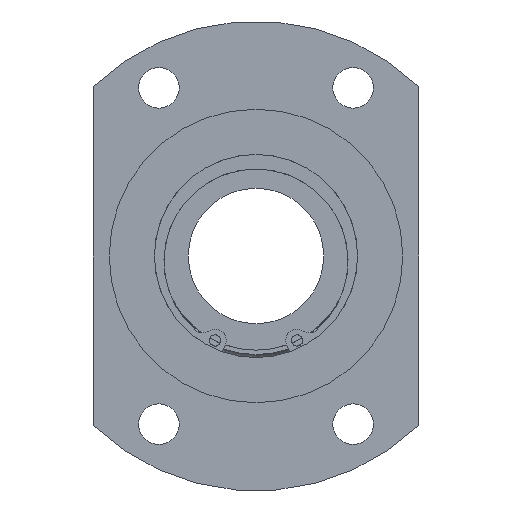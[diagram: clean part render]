
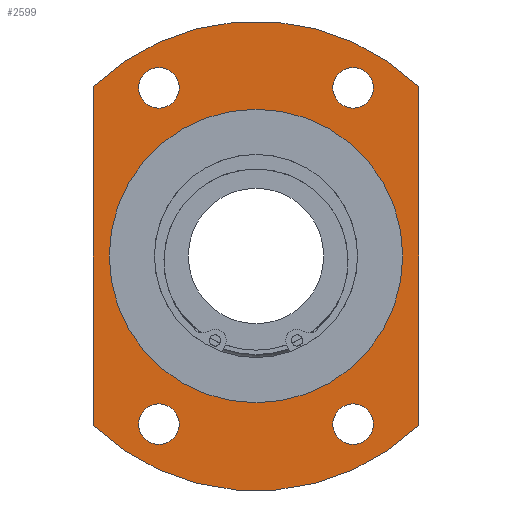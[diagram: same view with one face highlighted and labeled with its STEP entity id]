
A CAD part, left-side view. The second image highlights one B-rep face of the part: STEP entity #2599.
In plain terms, the highlighted planar face has unit normal (-1, 0, 0).
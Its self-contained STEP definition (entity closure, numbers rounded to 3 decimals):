
#2359=CARTESIAN_POINT('',(12.,26.,-37.239));
#2360=VERTEX_POINT('',#2359);
#2361=CARTESIAN_POINT('',(12.,21.5,-37.239));
#2362=DIRECTION('',(1.0,0.0,0.0));
#2363=DIRECTION('',(0.0,1.0,0.0));
#2364=AXIS2_PLACEMENT_3D('',#2361,#2362,#2363);
#2365=CIRCLE('',#2364,4.5);
#2366=EDGE_CURVE('',#2360,#2360,#2365,.T.);
#2387=CARTESIAN_POINT('',(12.,-17.,37.239));
#2388=VERTEX_POINT('',#2387);
#2389=CARTESIAN_POINT('',(12.,-21.5,37.239));
#2390=DIRECTION('',(1.0,0.0,0.0));
#2391=DIRECTION('',(0.0,1.0,0.0));
#2392=AXIS2_PLACEMENT_3D('',#2389,#2390,#2391);
#2393=CIRCLE('',#2392,4.5);
#2394=EDGE_CURVE('',#2388,#2388,#2393,.T.);
#2415=CARTESIAN_POINT('',(12.,26.,37.239));
#2416=VERTEX_POINT('',#2415);
#2417=CARTESIAN_POINT('',(12.,21.5,37.239));
#2418=DIRECTION('',(1.0,0.0,0.0));
#2419=DIRECTION('',(0.0,1.0,0.0));
#2420=AXIS2_PLACEMENT_3D('',#2417,#2418,#2419);
#2421=CIRCLE('',#2420,4.5);
#2422=EDGE_CURVE('',#2416,#2416,#2421,.T.);
#2443=CARTESIAN_POINT('',(12.,-17.,-37.239));
#2444=VERTEX_POINT('',#2443);
#2445=CARTESIAN_POINT('',(12.,-21.5,-37.239));
#2446=DIRECTION('',(1.0,0.0,0.0));
#2447=DIRECTION('',(0.0,1.0,0.0));
#2448=AXIS2_PLACEMENT_3D('',#2445,#2446,#2447);
#2449=CIRCLE('',#2448,4.5);
#2450=EDGE_CURVE('',#2444,#2444,#2449,.T.);
#2470=CARTESIAN_POINT('',(12.,36.,-37.523));
#2471=VERTEX_POINT('',#2470);
#2478=CARTESIAN_POINT('',(12.,36.,37.523));
#2479=VERTEX_POINT('',#2478);
#2480=CARTESIAN_POINT('',(12.,36.,37.523));
#2481=DIRECTION('',(0.0,0.0,-1.0));
#2482=VECTOR('',#2481,75.047);
#2483=LINE('',#2480,#2482);
#2484=EDGE_CURVE('',#2479,#2471,#2483,.T.);
#2510=CARTESIAN_POINT('',(12.,-36.,37.523));
#2511=VERTEX_POINT('',#2510);
#2518=CARTESIAN_POINT('',(12.,-36.,-37.523));
#2519=VERTEX_POINT('',#2518);
#2520=CARTESIAN_POINT('',(12.,-36.,-37.523));
#2521=DIRECTION('',(0.0,0.0,1.0));
#2522=VECTOR('',#2521,75.047);
#2523=LINE('',#2520,#2522);
#2524=EDGE_CURVE('',#2519,#2511,#2523,.T.);
#2549=CARTESIAN_POINT('',(12.,0.0,0.0));
#2550=DIRECTION('',(-1.0,0.0,0.0));
#2551=DIRECTION('',(0.0,0.0,1.0));
#2552=AXIS2_PLACEMENT_3D('',#2549,#2550,#2551);
#2553=CIRCLE('',#2552,52.);
#2554=EDGE_CURVE('',#2471,#2519,#2553,.T.);
#2559=CARTESIAN_POINT('',(12.,0.0,42.25));
#2560=DIRECTION('',(-1.0,0.0,0.0));
#2561=DIRECTION('',(0.0,0.0,1.0));
#2562=AXIS2_PLACEMENT_3D('',#2559,#2560,#2561);
#2563=PLANE('',#2562);
#2564=ORIENTED_EDGE('',*,*,#2484,.T.);
#2565=ORIENTED_EDGE('',*,*,#2554,.T.);
#2566=ORIENTED_EDGE('',*,*,#2524,.T.);
#2567=CARTESIAN_POINT('',(12.,0.0,0.0));
#2568=DIRECTION('',(-1.0,0.0,0.0));
#2569=DIRECTION('',(0.0,0.0,1.0));
#2570=AXIS2_PLACEMENT_3D('',#2567,#2568,#2569);
#2571=CIRCLE('',#2570,52.);
#2572=EDGE_CURVE('',#2511,#2479,#2571,.T.);
#2573=ORIENTED_EDGE('',*,*,#2572,.T.);
#2574=EDGE_LOOP('',(#2564,#2565,#2566,#2573));
#2575=FACE_OUTER_BOUND('',#2574,.T.);
#2576=ORIENTED_EDGE('',*,*,#2366,.T.);
#2577=EDGE_LOOP('',(#2576));
#2578=FACE_BOUND('',#2577,.T.);
#2579=ORIENTED_EDGE('',*,*,#2394,.T.);
#2580=EDGE_LOOP('',(#2579));
#2581=FACE_BOUND('',#2580,.T.);
#2582=ORIENTED_EDGE('',*,*,#2422,.T.);
#2583=EDGE_LOOP('',(#2582));
#2584=FACE_BOUND('',#2583,.T.);
#2585=ORIENTED_EDGE('',*,*,#2450,.T.);
#2586=EDGE_LOOP('',(#2585));
#2587=FACE_BOUND('',#2586,.T.);
#2588=CARTESIAN_POINT('',(12.,0.0,32.5));
#2589=VERTEX_POINT('',#2588);
#2590=CARTESIAN_POINT('',(12.,0.0,0.0));
#2591=DIRECTION('',(-1.0,0.0,0.0));
#2592=DIRECTION('',(0.0,0.0,1.0));
#2593=AXIS2_PLACEMENT_3D('',#2590,#2591,#2592);
#2594=CIRCLE('',#2593,32.5);
#2595=EDGE_CURVE('',#2589,#2589,#2594,.T.);
#2596=ORIENTED_EDGE('',*,*,#2595,.F.);
#2597=EDGE_LOOP('',(#2596));
#2598=FACE_BOUND('',#2597,.T.);
#2599=ADVANCED_FACE('',(#2575,#2578,#2581,#2584,#2587,#2598),#2563,.T.);
